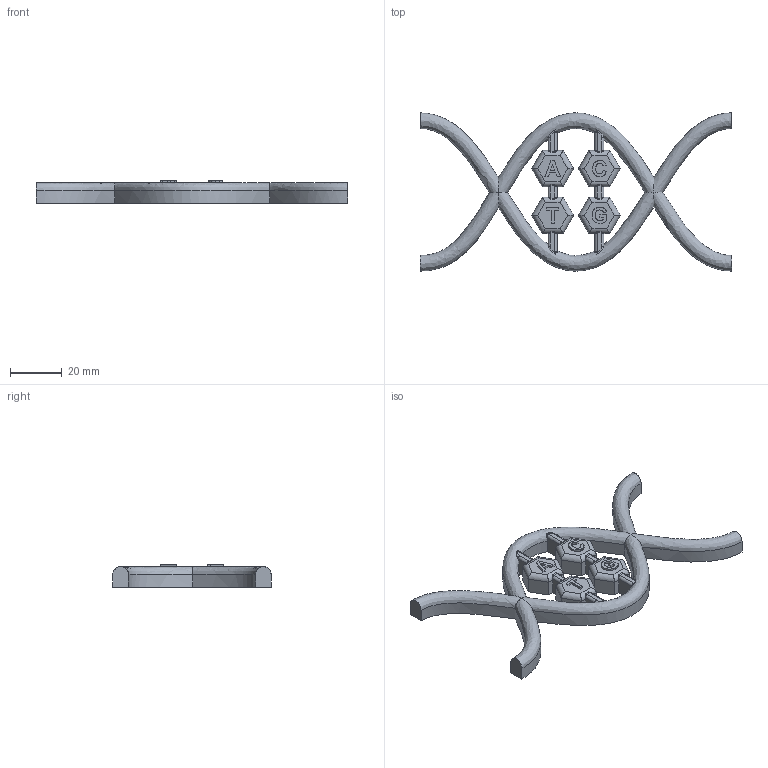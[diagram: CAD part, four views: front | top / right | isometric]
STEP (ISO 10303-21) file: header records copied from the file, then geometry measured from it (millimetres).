
FILE_DESCRIPTION(/* description */ (''),/* implementation_level */ '2;1');
FILE_NAME(/* name */ 'C:/Users/Quentin/Documents/FabAcademy/Fusion360/DNA_keypad/20210425_DNA_keypad.step',/* time_stamp */ '2021-04-25T11:02:14+02:00',/* author */ (''),/* organization */ (''),/* preprocessor_version */ 'ST-DEVELOPER v18.1',/* originating_system */ 'Autodesk Translation Framework v10.6.0.1341',/* authorisation */ '');
FILE_SCHEMA (('AUTOMOTIVE_DESIGN { 1 0 10303 214 3 1 1 }'));
Length unit declared in the file: millimetre
Products named in the file (2): DNA_keypad_v2; DNA
Assembly tree (1 placements, depth 2):
  DNA_keypad_v2
    DNA
Bounding box: 120 x 61 x 8.8 mm (x, y, z)
Volume: 20582.3 mm3; surface area: 11481.9 mm2
Topology: 1 solids, 1 shells, 243 faces, 635 edges, 396 vertices
Faces by surface type: plane 91, bspline 68, cylinder 68, torus 16
Entity records: 9275 total; most frequent: CARTESIAN_POINT 3759, ORIENTED_EDGE 1270, DIRECTION 913, EDGE_CURVE 635, VERTEX_POINT 396, LINE 347, VECTOR 347, AXIS2_PLACEMENT_3D 283
